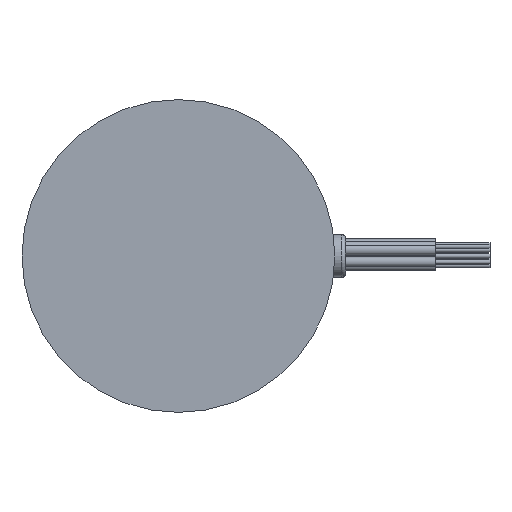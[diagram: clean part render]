
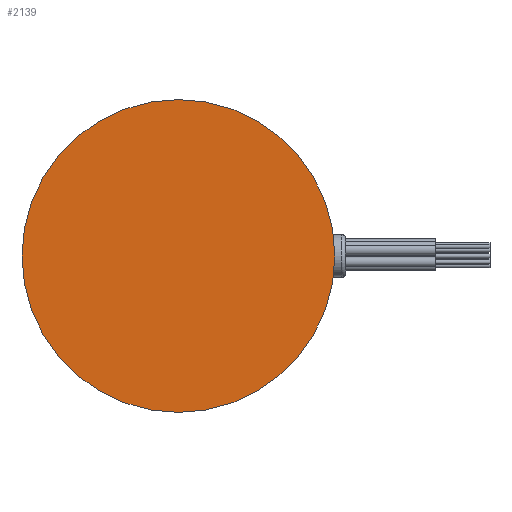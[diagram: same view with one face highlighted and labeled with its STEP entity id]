
A CAD part, front view. The second image highlights one B-rep face of the part: STEP entity #2139.
In plain terms, the highlighted planar face has unit normal (0, -1, 0).
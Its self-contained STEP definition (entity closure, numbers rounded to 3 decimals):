
#10 = VERTEX_POINT ( 'NONE', #4868 ) ;
#429 = AXIS2_PLACEMENT_3D ( 'NONE', #1852, #2417, #2490 ) ;
#563 = DIRECTION ( 'NONE',  ( 0., 1., 0. ) ) ;
#585 = DIRECTION ( 'NONE',  ( 0., 0., 1. ) ) ;
#1116 = CARTESIAN_POINT ( 'NONE',  ( 18.558, 19.015, 89.697 ) ) ;
#1130 = DIRECTION ( 'NONE',  ( 0., 0., 1. ) ) ;
#1555 = EDGE_LOOP ( 'NONE', ( #6397, #1787 ) ) ;
#1733 = CARTESIAN_POINT ( 'NONE',  ( 18.558, 19.015, 89.697 ) ) ;
#1774 = PLANE ( 'NONE',  #6040 ) ;
#1787 = ORIENTED_EDGE ( 'NONE', *, *, #3598, .F. ) ;
#1852 = CARTESIAN_POINT ( 'NONE',  ( 18.558, 19.015, 89.697 ) ) ;
#2139 = ADVANCED_FACE ( 'NONE', ( #7309 ), #1774, .F. ) ;
#2417 = DIRECTION ( 'NONE',  ( 0., 1., 0. ) ) ;
#2421 = CIRCLE ( 'NONE', #4862, 22. ) ;
#2490 = DIRECTION ( 'NONE',  ( 0., 0., 1. ) ) ;
#3180 = VERTEX_POINT ( 'NONE', #5871 ) ;
#3598 = EDGE_CURVE ( 'NONE', #3180, #10, #2421, .T. ) ;
#4609 = DIRECTION ( 'NONE',  ( 0., 1., 0. ) ) ;
#4862 = AXIS2_PLACEMENT_3D ( 'NONE', #1733, #563, #1130 ) ;
#4868 = CARTESIAN_POINT ( 'NONE',  ( 18.558, 19.015, 111.697 ) ) ;
#5466 = CIRCLE ( 'NONE', #429, 22. ) ;
#5871 = CARTESIAN_POINT ( 'NONE',  ( 18.558, 19.015, 67.697 ) ) ;
#6040 = AXIS2_PLACEMENT_3D ( 'NONE', #1116, #4609, #585 ) ;
#6397 = ORIENTED_EDGE ( 'NONE', *, *, #6721, .F. ) ;
#6721 = EDGE_CURVE ( 'NONE', #10, #3180, #5466, .T. ) ;
#7309 = FACE_OUTER_BOUND ( 'NONE', #1555, .T. ) ;
